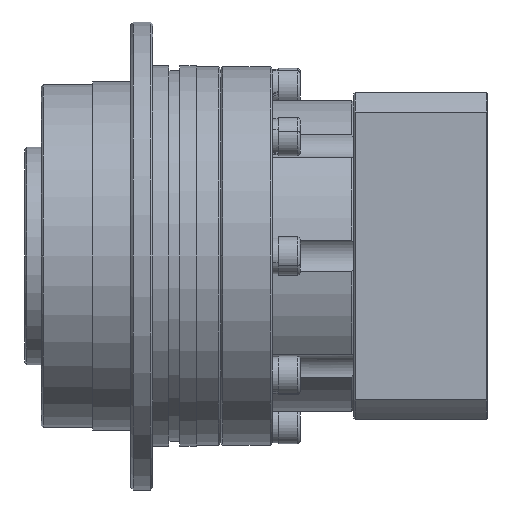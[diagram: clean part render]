
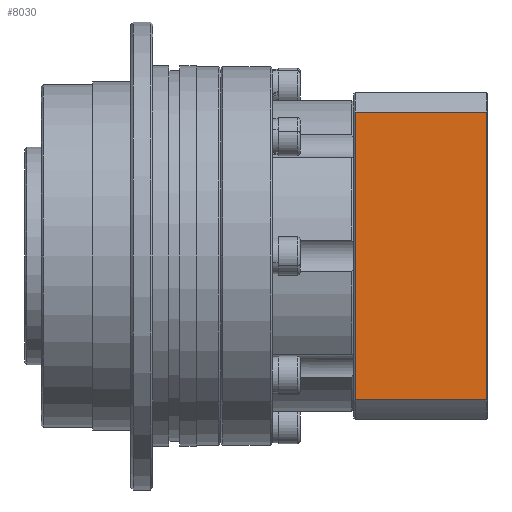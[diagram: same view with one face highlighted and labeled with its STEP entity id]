
A CAD part, front view. The second image highlights one B-rep face of the part: STEP entity #8030.
In plain terms, the highlighted planar face has unit normal (0, -1, 0).
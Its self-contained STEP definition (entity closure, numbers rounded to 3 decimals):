
#175 = LINE ( 'NONE', #3102, #14452 ) ;
#1284 = ORIENTED_EDGE ( 'NONE', *, *, #6234, .F. ) ;
#1803 = AXIS2_PLACEMENT_3D ( 'NONE', #11284, #3973, #6950 ) ;
#1851 = VERTEX_POINT ( 'NONE', #7741 ) ;
#2070 = LINE ( 'NONE', #6345, #18818 ) ;
#2619 = VERTEX_POINT ( 'NONE', #9877 ) ;
#3102 = CARTESIAN_POINT ( 'NONE',  ( 0., -30., 26.458 ) ) ;
#3374 = LINE ( 'NONE', #16980, #17138 ) ;
#3595 = VECTOR ( 'NONE', #5789, 1000. ) ;
#3973 = DIRECTION ( 'NONE',  ( 0., 1., 0. ) ) ;
#5590 = PLANE ( 'NONE',  #1803 ) ;
#5789 = DIRECTION ( 'NONE',  ( -1., 0., 0. ) ) ;
#6234 = EDGE_CURVE ( 'NONE', #1851, #8863, #175, .T. ) ;
#6345 = CARTESIAN_POINT ( 'NONE',  ( 24.3, -30., -26.458 ) ) ;
#6542 = DIRECTION ( 'NONE',  ( 0., 0., -1. ) ) ;
#6626 = ORIENTED_EDGE ( 'NONE', *, *, #14144, .F. ) ;
#6950 = DIRECTION ( 'NONE',  ( 0., 0., 1. ) ) ;
#7204 = EDGE_CURVE ( 'NONE', #1851, #2619, #3374, .T. ) ;
#7741 = CARTESIAN_POINT ( 'NONE',  ( 0.2, -30., 26.458 ) ) ;
#8030 = ADVANCED_FACE ( 'NONE', ( #10022 ), #5590, .F. ) ;
#8262 = CARTESIAN_POINT ( 'NONE',  ( 24.3, -30., -26.458 ) ) ;
#8611 = CARTESIAN_POINT ( 'NONE',  ( -15.904, -30., -26.458 ) ) ;
#8863 = VERTEX_POINT ( 'NONE', #12019 ) ;
#9833 = EDGE_CURVE ( 'NONE', #14834, #2619, #12104, .T. ) ;
#9877 = CARTESIAN_POINT ( 'NONE',  ( 0.2, -30., -26.458 ) ) ;
#9983 = ORIENTED_EDGE ( 'NONE', *, *, #9833, .F. ) ;
#10022 = FACE_OUTER_BOUND ( 'NONE', #10443, .T. ) ;
#10443 = EDGE_LOOP ( 'NONE', ( #6626, #1284, #13709, #9983 ) ) ;
#11174 = DIRECTION ( 'NONE',  ( 0., 0., -1. ) ) ;
#11284 = CARTESIAN_POINT ( 'NONE',  ( 0., -30., -26.458 ) ) ;
#12019 = CARTESIAN_POINT ( 'NONE',  ( 24.3, -30., 26.458 ) ) ;
#12097 = DIRECTION ( 'NONE',  ( 1., 0., 0. ) ) ;
#12104 = LINE ( 'NONE', #8611, #3595 ) ;
#13709 = ORIENTED_EDGE ( 'NONE', *, *, #7204, .T. ) ;
#14144 = EDGE_CURVE ( 'NONE', #8863, #14834, #2070, .T. ) ;
#14452 = VECTOR ( 'NONE', #12097, 1000. ) ;
#14834 = VERTEX_POINT ( 'NONE', #8262 ) ;
#16980 = CARTESIAN_POINT ( 'NONE',  ( 0.2, -30., 0. ) ) ;
#17138 = VECTOR ( 'NONE', #11174, 1000. ) ;
#18818 = VECTOR ( 'NONE', #6542, 1000. ) ;
